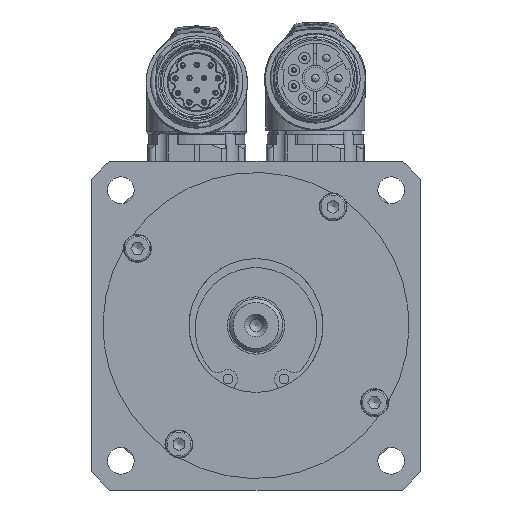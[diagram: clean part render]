
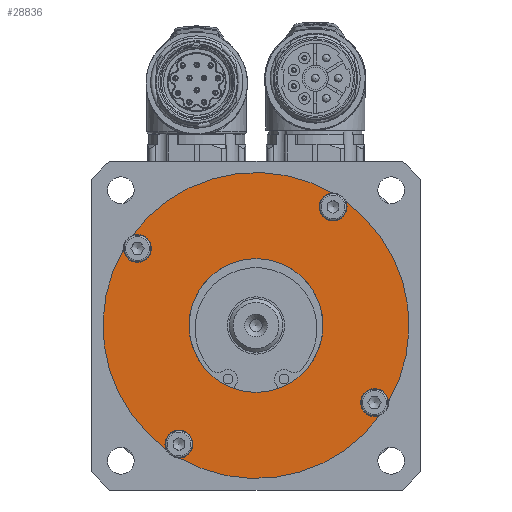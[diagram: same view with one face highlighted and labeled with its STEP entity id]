
A CAD part, left-side view. The second image highlights one B-rep face of the part: STEP entity #28836.
In plain terms, the highlighted planar face has unit normal (-1, 0, 0).
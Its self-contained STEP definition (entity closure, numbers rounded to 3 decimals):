
#3432=FACE_BOUND('',#9454,.T.);
#7533=FACE_OUTER_BOUND('',#9453,.T.);
#9453=EDGE_LOOP('',(#20367,#20368,#20369,#20370,#20371,#20372,#20373,#20374));
#9454=EDGE_LOOP('',(#20375));
#11783=CIRCLE('',#30931,17.5);
#11813=CIRCLE('',#30972,3.65);
#11819=CIRCLE('',#30981,3.65);
#11825=CIRCLE('',#30990,3.65);
#11831=CIRCLE('',#30999,3.65);
#11839=CIRCLE('',#31016,40.);
#11841=CIRCLE('',#31019,40.);
#11842=CIRCLE('',#31020,40.);
#11843=CIRCLE('',#31021,40.);
#13507=VERTEX_POINT('',#43162);
#13543=VERTEX_POINT('',#43254);
#13544=VERTEX_POINT('',#43255);
#13553=VERTEX_POINT('',#43277);
#13554=VERTEX_POINT('',#43278);
#13563=VERTEX_POINT('',#43300);
#13564=VERTEX_POINT('',#43301);
#13573=VERTEX_POINT('',#43323);
#13574=VERTEX_POINT('',#43324);
#16143=EDGE_CURVE('',#13507,#13507,#11783,.T.);
#16188=EDGE_CURVE('',#13543,#13544,#11813,.T.);
#16198=EDGE_CURVE('',#13553,#13554,#11819,.T.);
#16208=EDGE_CURVE('',#13563,#13564,#11825,.T.);
#16218=EDGE_CURVE('',#13573,#13574,#11831,.T.);
#16233=EDGE_CURVE('',#13543,#13574,#11839,.T.);
#16235=EDGE_CURVE('',#13573,#13564,#11841,.T.);
#16236=EDGE_CURVE('',#13563,#13554,#11842,.T.);
#16237=EDGE_CURVE('',#13553,#13544,#11843,.T.);
#20367=ORIENTED_EDGE('',*,*,#16218,.F.);
#20368=ORIENTED_EDGE('',*,*,#16235,.T.);
#20369=ORIENTED_EDGE('',*,*,#16208,.F.);
#20370=ORIENTED_EDGE('',*,*,#16236,.T.);
#20371=ORIENTED_EDGE('',*,*,#16198,.F.);
#20372=ORIENTED_EDGE('',*,*,#16237,.T.);
#20373=ORIENTED_EDGE('',*,*,#16188,.F.);
#20374=ORIENTED_EDGE('',*,*,#16233,.T.);
#20375=ORIENTED_EDGE('',*,*,#16143,.F.);
#28276=PLANE('',#31018);
#28836=ADVANCED_FACE('',(#7533,#3432),#28276,.F.);
#30931=AXIS2_PLACEMENT_3D('',#43163,#34603,#34604);
#30972=AXIS2_PLACEMENT_3D('',#43256,#34700,#34701);
#30981=AXIS2_PLACEMENT_3D('',#43279,#34722,#34723);
#30990=AXIS2_PLACEMENT_3D('',#43302,#34744,#34745);
#30999=AXIS2_PLACEMENT_3D('',#43325,#34766,#34767);
#31016=AXIS2_PLACEMENT_3D('',#43358,#34807,#34808);
#31018=AXIS2_PLACEMENT_3D('',#43360,#34811,#34812);
#31019=AXIS2_PLACEMENT_3D('',#43361,#34813,#34814);
#31020=AXIS2_PLACEMENT_3D('',#43362,#34815,#34816);
#31021=AXIS2_PLACEMENT_3D('',#43363,#34817,#34818);
#34603=DIRECTION('center_axis',(-1.,0.,0.));
#34604=DIRECTION('ref_axis',(0.,0.,
1.));
#34700=DIRECTION('center_axis',(-1.,0.,0.));
#34701=DIRECTION('ref_axis',(0.,-1.,0.));
#34722=DIRECTION('center_axis',(-1.,0.,0.));
#34723=DIRECTION('ref_axis',(0.,0.,
-1.));
#34744=DIRECTION('center_axis',(-1.,0.,0.));
#34745=DIRECTION('ref_axis',(0.,1.,0.));
#34766=DIRECTION('center_axis',(-1.,0.,0.));
#34767=DIRECTION('ref_axis',(0.,0.,1.));
#34807=DIRECTION('center_axis',(-1.,0.,0.));
#34808=DIRECTION('ref_axis',(0.,0.,
1.));
#34811=DIRECTION('center_axis',(1.,0.,0.));
#34812=DIRECTION('ref_axis',(0.,0.,
-1.));
#34813=DIRECTION('center_axis',(-1.,0.,0.));
#34814=DIRECTION('ref_axis',(0.,0.,
1.));
#34815=DIRECTION('center_axis',(-1.,0.,0.));
#34816=DIRECTION('ref_axis',(0.,0.,
1.));
#34817=DIRECTION('center_axis',(-1.,0.,0.));
#34818=DIRECTION('ref_axis',(0.,0.,
1.));
#43162=CARTESIAN_POINT('',(-28.25,0.,-17.5));
#43163=CARTESIAN_POINT('Origin',(-28.25,0.,0.));
#43254=CARTESIAN_POINT('',(-28.25,34.647,19.99));
#43255=CARTESIAN_POINT('',(-28.25,32.335,23.547));
#43256=CARTESIAN_POINT('Origin',(-28.25,31.,20.15));
#43277=CARTESIAN_POINT('',(-28.25,-19.99,34.647));
#43278=CARTESIAN_POINT('',(-28.25,-23.547,32.335));
#43279=CARTESIAN_POINT('Origin',(-28.25,-20.15,31.));
#43300=CARTESIAN_POINT('',(-28.25,-34.647,-19.99));
#43301=CARTESIAN_POINT('',(-28.25,-32.335,-23.547));
#43302=CARTESIAN_POINT('Origin',(-28.25,-31.,-20.15));
#43323=CARTESIAN_POINT('',(-28.25,19.99,-34.647));
#43324=CARTESIAN_POINT('',(-28.25,23.547,-32.335));
#43325=CARTESIAN_POINT('Origin',(-28.25,20.15,-31.));
#43358=CARTESIAN_POINT('Origin',(-28.25,0.,0.));
#43360=CARTESIAN_POINT('Origin',(-28.25,0.,40.));
#43361=CARTESIAN_POINT('Origin',(-28.25,0.,0.));
#43362=CARTESIAN_POINT('Origin',(-28.25,0.,0.));
#43363=CARTESIAN_POINT('Origin',(-28.25,0.,0.));
